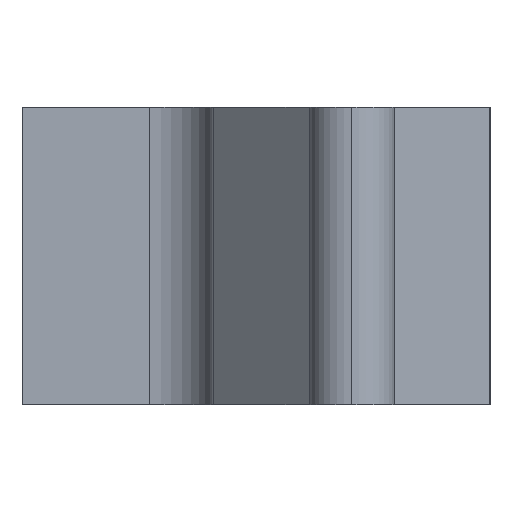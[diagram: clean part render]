
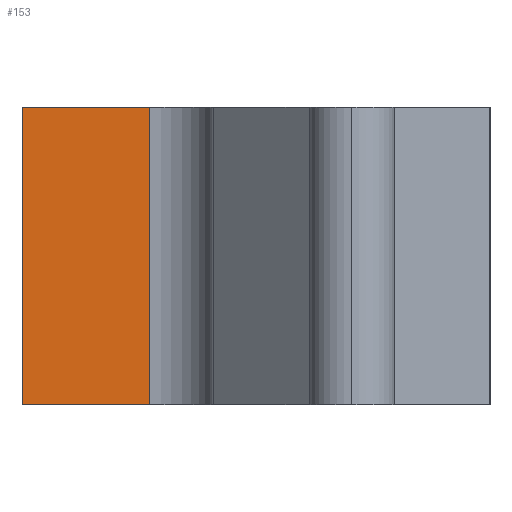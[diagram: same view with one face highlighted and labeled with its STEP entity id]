
A CAD part, front view. The second image highlights one B-rep face of the part: STEP entity #153.
In plain terms, the highlighted planar face has unit normal (0, -1, 0).
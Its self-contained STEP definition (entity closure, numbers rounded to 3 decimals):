
#137=FACE_OUTER_BOUND('',#347,.T.);
#153=ADVANCED_FACE('',(#137),#191,.T.);
#191=PLANE('',#758);
#204=LINE('',#1041,#239);
#212=LINE('',#1063,#247);
#218=LINE('',#1091,#253);
#225=LINE('',#1108,#260);
#239=VECTOR('',#845,1.);
#247=VECTOR('',#863,1.);
#253=VECTOR('',#889,1.);
#260=VECTOR('',#906,1.);
#347=EDGE_LOOP('',(#458,#459,#460,#461));
#458=ORIENTED_EDGE('',*,*,#643,.T.);
#459=ORIENTED_EDGE('',*,*,#653,.T.);
#460=ORIENTED_EDGE('',*,*,#618,.F.);
#461=ORIENTED_EDGE('',*,*,#629,.T.);
#559=VERTEX_POINT('',#1040);
#560=VERTEX_POINT('',#1042);
#568=VERTEX_POINT('',#1062);
#580=VERTEX_POINT('',#1090);
#618=EDGE_CURVE('',#559,#560,#204,.T.);
#629=EDGE_CURVE('',#559,#568,#212,.T.);
#643=EDGE_CURVE('',#568,#580,#218,.T.);
#653=EDGE_CURVE('',#580,#560,#225,.T.);
#758=AXIS2_PLACEMENT_3D('',#1109,#907,#908);
#845=DIRECTION('',(1.,0.,0.));
#863=DIRECTION('',(0.,0.,-1.));
#889=DIRECTION('',(1.,0.,0.));
#906=DIRECTION('',(0.,0.,1.));
#907=DIRECTION('',(0.,-1.,0.));
#908=DIRECTION('',(0.,0.,-1.));
#1040=CARTESIAN_POINT('',(-15.5,44.,14.));
#1041=CARTESIAN_POINT('',(-8.,44.,14.));
#1042=CARTESIAN_POINT('',(-9.5,44.,14.));
#1062=CARTESIAN_POINT('',(-15.5,44.,0.));
#1063=CARTESIAN_POINT('',(-15.5,44.,14.));
#1090=CARTESIAN_POINT('',(-9.5,44.,0.));
#1091=CARTESIAN_POINT('',(-8.,44.,0.));
#1108=CARTESIAN_POINT('',(-9.5,44.,14.));
#1109=CARTESIAN_POINT('',(-7.,44.,14.));
